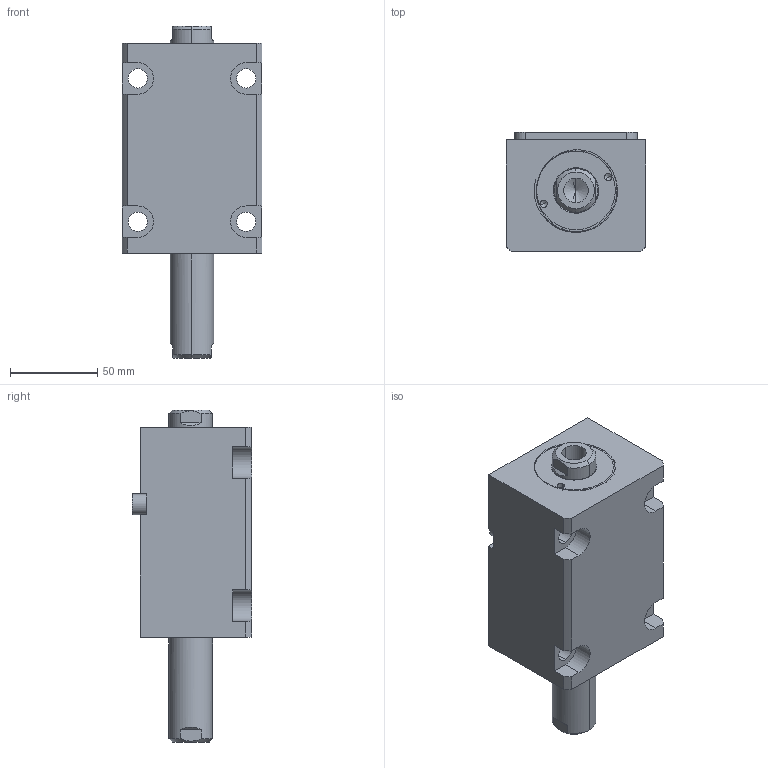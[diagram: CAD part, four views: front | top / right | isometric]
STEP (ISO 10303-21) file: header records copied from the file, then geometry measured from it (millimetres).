
FILE_DESCRIPTION (( 'STEP AP214' ), '1' );
FILE_NAME ('chtb-lwm40x50n_asm.STEP', '2018-05-30T08:23:13', ( 'Windows' ), ( 'Microsoft' ), 'SwSTEP 2.0', 'SolidWorks 2015', '' );
FILE_SCHEMA (( 'AUTOMOTIVE_DESIGN' ));
Length unit declared in the file: millimetre
Products named in the file (5): CHTB-SD40QG; CHTB-LA40PJ; CHTB-SW40X50NHSG; CHTB-LWM40X50NBT; chtb-lwm40x50n_asm
Assembly tree (4 placements, depth 2):
  chtb-lwm40x50n_asm
    CHTB-LWM40X50NBT
    CHTB-SW40X50NHSG
    CHTB-LA40PJ
    CHTB-SD40QG
Bounding box: 80 x 68.5 x 190 mm (x, y, z)
Volume: 569244.9 mm3; surface area: 100024.8 mm2
Topology: 4 solids, 4 shells, 166 faces, 450 edges, 296 vertices
Faces by surface type: cylinder 77, plane 50, bspline 14, cone 13, torus 12
Entity records: 10488 total; most frequent: CARTESIAN_POINT 6156, ORIENTED_EDGE 880, DIRECTION 821, EDGE_CURVE 440, AXIS2_PLACEMENT_3D 326, VERTEX_POINT 296, EDGE_LOOP 196, LINE 169
